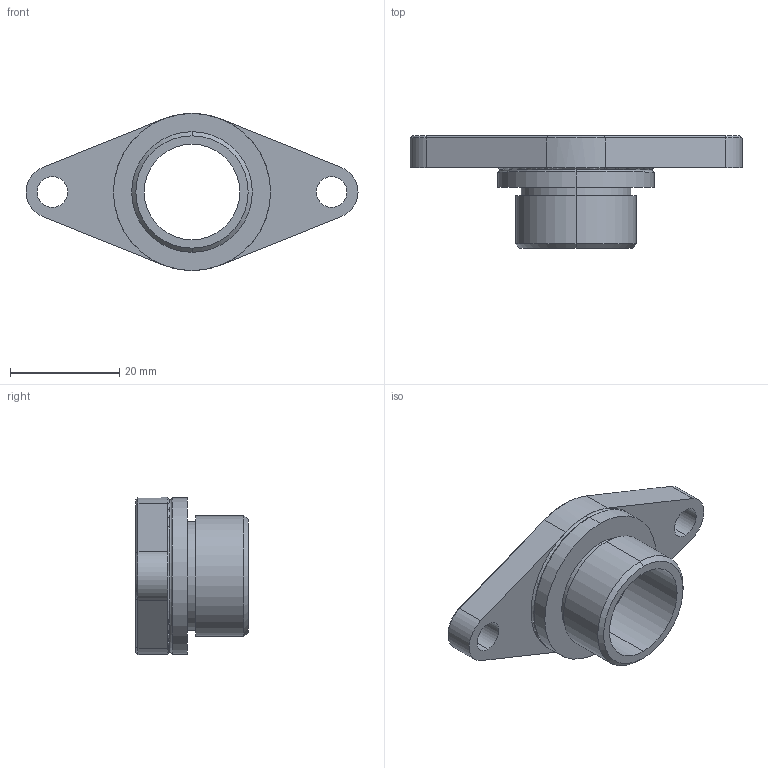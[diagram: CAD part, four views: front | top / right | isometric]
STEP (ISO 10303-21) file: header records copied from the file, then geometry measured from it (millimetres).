
FILE_DESCRIPTION (( 'STEP AP214' ), '1' );
FILE_NAME ('ASG-AC2500-MPJR.STEP', '2012-01-26T15:13:16', ( '' ), ( '' ), 'SwSTEP 2.0', 'SolidWorks 2012', '' );
FILE_SCHEMA (( 'AUTOMOTIVE_DESIGN' ));
Length unit declared in the file: inch
Products named in the file (1): ASG-AC2500-MPJR
Bounding box: 60.66 x 20.5 x 28.7 mm (x, y, z)
Volume: 6582.1 mm3; surface area: 5165.9 mm2
Topology: 1 solids, 1 shells, 51 faces, 112 edges, 68 vertices
Faces by surface type: cylinder 23, plane 17, cone 7, torus 4
Entity records: 1512 total; most frequent: DIRECTION 278, CARTESIAN_POINT 232, ORIENTED_EDGE 224, AXIS2_PLACEMENT_3D 114, EDGE_CURVE 112, VERTEX_POINT 68, EDGE_LOOP 62, CIRCLE 62
